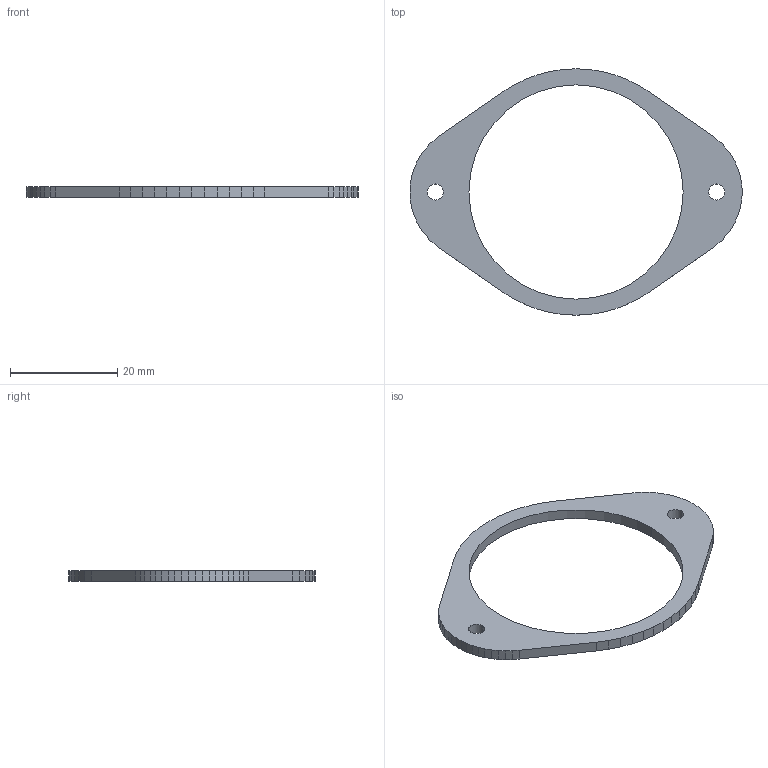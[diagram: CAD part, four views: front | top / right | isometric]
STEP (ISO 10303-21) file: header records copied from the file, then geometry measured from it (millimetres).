
FILE_DESCRIPTION(('STEP AP214'),'1');
FILE_NAME('tmp0.step','2026-06-16T19:57:37',(' '),(' '),'Spatial InterOp 3D',' ',' ');
FILE_SCHEMA(('AUTOMOTIVE_DESIGN { 1 0 10303 214 1 1 1 1 }'));
Length unit declared in the file: millimetre
Products named in the file (1): 1
Bounding box: 62 x 46 x 2 mm (x, y, z)
Volume: 1521.7 mm3; surface area: 2140.7 mm2
Topology: 1 solids, 1 shells, 74 faces, 216 edges, 144 vertices
Faces by surface type: plane 68, cylinder 6
Entity records: 2449 total; most frequent: CARTESIAN_POINT 435, ORIENTED_EDGE 432, DIRECTION 378, EDGE_CURVE 216, LINE 204, VECTOR 204, VERTEX_POINT 144, AXIS2_PLACEMENT_3D 87
